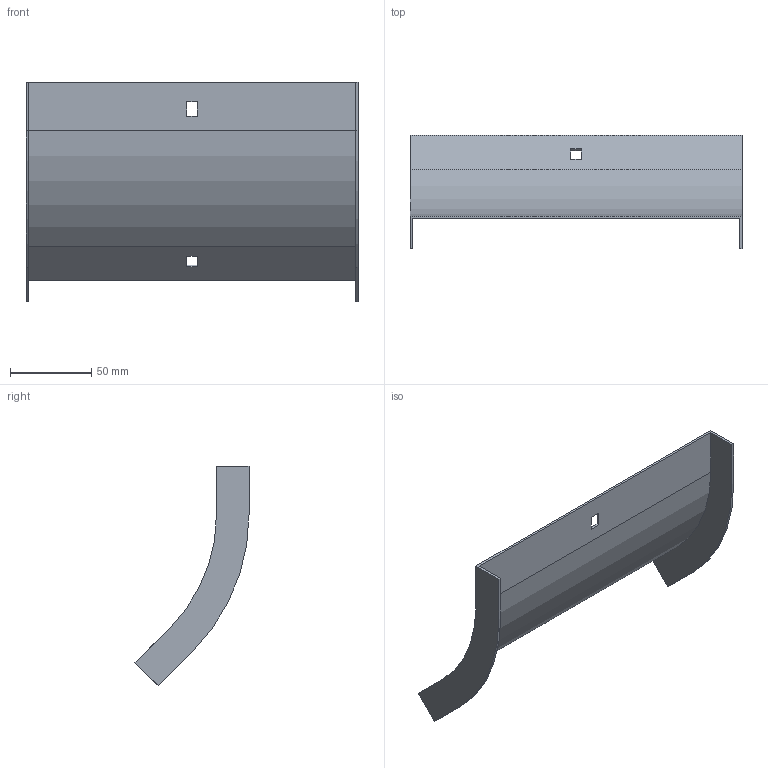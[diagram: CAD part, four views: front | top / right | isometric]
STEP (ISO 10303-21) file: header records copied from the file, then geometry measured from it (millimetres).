
FILE_DESCRIPTION (( 'STEP AP214' ), '1' );
FILE_NAME ('31G1P200.step', '2025-02-21T12:47:54', ( '' ), ( '' ), 'SwSTEP 2.0', 'SolidWorks 2023', '' );
FILE_SCHEMA (( 'AUTOMOTIVE_DESIGN' ));
Length unit declared in the file: millimetre
Products named in the file (1): 31G1P200
Bounding box: 204 x 70.06 x 135.01 mm (x, y, z)
Volume: 50129.6 mm3; surface area: 68112.9 mm2
Topology: 1 solids, 1 shells, 26 faces, 72 edges, 48 vertices
Faces by surface type: plane 22, cylinder 4
Entity records: 855 total; most frequent: CARTESIAN_POINT 147, ORIENTED_EDGE 144, DIRECTION 134, EDGE_CURVE 72, VECTOR 64, LINE 64, VERTEX_POINT 48, AXIS2_PLACEMENT_3D 35
